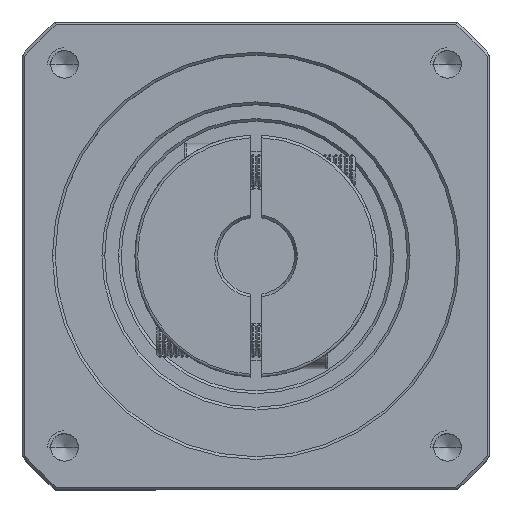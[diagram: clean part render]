
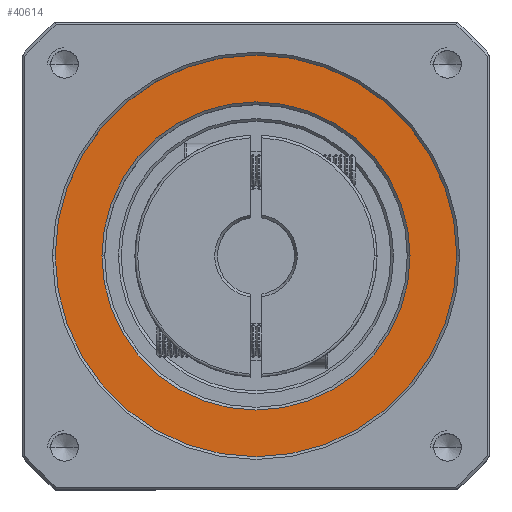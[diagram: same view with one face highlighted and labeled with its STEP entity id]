
A CAD part, top view. The second image highlights one B-rep face of the part: STEP entity #40614.
In plain terms, the highlighted planar face has unit normal (0, 0, 1).
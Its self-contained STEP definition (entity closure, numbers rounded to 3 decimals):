
#1550 = CARTESIAN_POINT ( 'NONE',  ( -95.807, 41.931, 45.967 ) ) ;
#4492 = FACE_OUTER_BOUND ( 'NONE', #82569, .T. ) ;
#9744 = PLANE ( 'NONE',  #12499 ) ;
#10155 = CARTESIAN_POINT ( 'NONE',  ( -95.807, 41.931, 45.967 ) ) ;
#10756 = ORIENTED_EDGE ( 'NONE', *, *, #18613, .T. ) ;
#10845 = AXIS2_PLACEMENT_3D ( 'NONE', #91332, #32325, #101202 ) ;
#11457 = DIRECTION ( 'NONE',  ( 1., 0., 0. ) ) ;
#12497 = DIRECTION ( 'NONE',  ( 0., 0., -1. ) ) ;
#12499 = AXIS2_PLACEMENT_3D ( 'NONE', #10155, #79022, #20080 ) ;
#16295 = VERTEX_POINT ( 'NONE', #36758 ) ;
#18613 = EDGE_CURVE ( 'NONE', #28540, #16295, #23096, .T. ) ;
#19901 = CARTESIAN_POINT ( 'NONE',  ( -95.807, 41.931, 45.967 ) ) ;
#20080 = DIRECTION ( 'NONE',  ( 1., 0., 0. ) ) ;
#22517 = CIRCLE ( 'NONE', #53201, 28. ) ;
#23096 = CIRCLE ( 'NONE', #124992, 36.5 ) ;
#24195 = CARTESIAN_POINT ( 'NONE',  ( -123.807, 41.931, 45.967 ) ) ;
#28540 = VERTEX_POINT ( 'NONE', #88627 ) ;
#29810 = DIRECTION ( 'NONE',  ( 1., 0., 0. ) ) ;
#32325 = DIRECTION ( 'NONE',  ( 0., 0., 1. ) ) ;
#36758 = CARTESIAN_POINT ( 'NONE',  ( -132.307, 41.931, 45.967 ) ) ;
#40614 = ADVANCED_FACE ( 'NONE', ( #4492, #56904 ), #9744, .T. ) ;
#42070 = VERTEX_POINT ( 'NONE', #64024 ) ;
#49105 = EDGE_CURVE ( 'NONE', #80516, #42070, #22517, .T. ) ;
#53201 = AXIS2_PLACEMENT_3D ( 'NONE', #71431, #12497, #81405 ) ;
#56691 = ORIENTED_EDGE ( 'NONE', *, *, #49105, .T. ) ;
#56904 = FACE_BOUND ( 'NONE', #120990, .T. ) ;
#58604 = ORIENTED_EDGE ( 'NONE', *, *, #123645, .T. ) ;
#64024 = CARTESIAN_POINT ( 'NONE',  ( -67.807, 41.931, 45.967 ) ) ;
#70383 = DIRECTION ( 'NONE',  ( 0., 0., 1. ) ) ;
#71431 = CARTESIAN_POINT ( 'NONE',  ( -95.807, 41.931, 45.967 ) ) ;
#75723 = ORIENTED_EDGE ( 'NONE', *, *, #97607, .T. ) ;
#79022 = DIRECTION ( 'NONE',  ( 0., 0., 1. ) ) ;
#80516 = VERTEX_POINT ( 'NONE', #24195 ) ;
#81405 = DIRECTION ( 'NONE',  ( 1., 0., 0. ) ) ;
#82569 = EDGE_LOOP ( 'NONE', ( #10756, #75723 ) ) ;
#88627 = CARTESIAN_POINT ( 'NONE',  ( -59.307, 41.931, 45.967 ) ) ;
#88783 = DIRECTION ( 'NONE',  ( 0., 0., -1. ) ) ;
#91332 = CARTESIAN_POINT ( 'NONE',  ( -95.807, 41.931, 45.967 ) ) ;
#95774 = CIRCLE ( 'NONE', #10845, 36.5 ) ;
#97607 = EDGE_CURVE ( 'NONE', #16295, #28540, #95774, .T. ) ;
#101202 = DIRECTION ( 'NONE',  ( 1., 0., 0. ) ) ;
#106776 = AXIS2_PLACEMENT_3D ( 'NONE', #19901, #88783, #29810 ) ;
#120990 = EDGE_LOOP ( 'NONE', ( #58604, #56691 ) ) ;
#123645 = EDGE_CURVE ( 'NONE', #42070, #80516, #124805, .T. ) ;
#124805 = CIRCLE ( 'NONE', #106776, 28. ) ;
#124992 = AXIS2_PLACEMENT_3D ( 'NONE', #1550, #70383, #11457 ) ;
